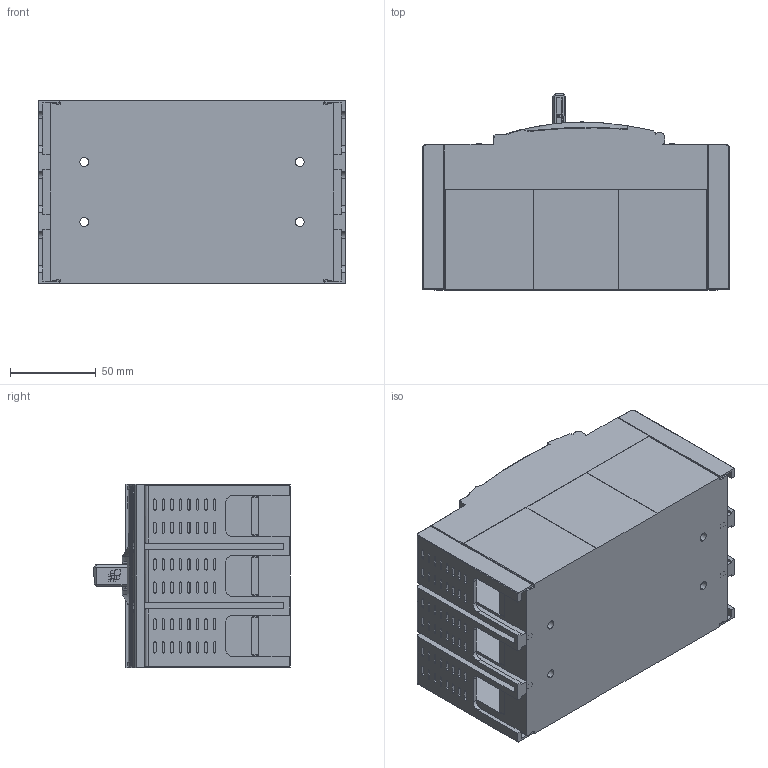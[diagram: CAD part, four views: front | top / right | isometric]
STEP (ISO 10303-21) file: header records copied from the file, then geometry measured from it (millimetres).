
FILE_DESCRIPTION((''),'2;1');
FILE_NAME('2TZD_256_1162_ASM_ASM_ASM','2017-04-24T',('CHEN'),(''),'PRO/ENGINEER BY PARAMETRIC TECHNOLOGY CORPORATION, 2016360','PRO/ENGINEER BY PARAMETRIC TECHNOLOGY CORPORATION, 2016360','');
FILE_SCHEMA(('CONFIG_CONTROL_DESIGN','GEOMETRIC_VALIDATION_PROPERTIES_MIM'));
Products named in the file (4): 8TZD_315_1534_23_1; 8TZD_024_1309_18_1; 2TZD_256_1162_ASM_ASM_1_ASM; 2TZD_256_1162_ASM_ASM_ASM
Assembly tree (3 placements, depth 3):
  2TZD_256_1162_ASM_ASM_ASM
    2TZD_256_1162_ASM_ASM_1_ASM
      8TZD_315_1534_23_1
      8TZD_024_1309_18_1
Bounding box: 179.2 x 114.63 x 107 mm (x, y, z)
Volume: 1444001.7 mm3; surface area: 203743.8 mm2
Topology: 2 solids, 2 shells, 1813 faces, 5332 edges, 3542 vertices
Faces by surface type: plane 1108, cylinder 577, cone 58, bspline 26, torus 24, extrusion 16, sphere 4
Entity records: 91023 total; most frequent: CARTESIAN_POINT 13767, ORIENTED_EDGE 10656, DIRECTION 9854, PRESENTATION_STYLE_ASSIGNMENT 6228, EDGE_CURVE 5328, STYLED_ITEM 4865, CURVE_STYLE 4628, VECTOR 3668
